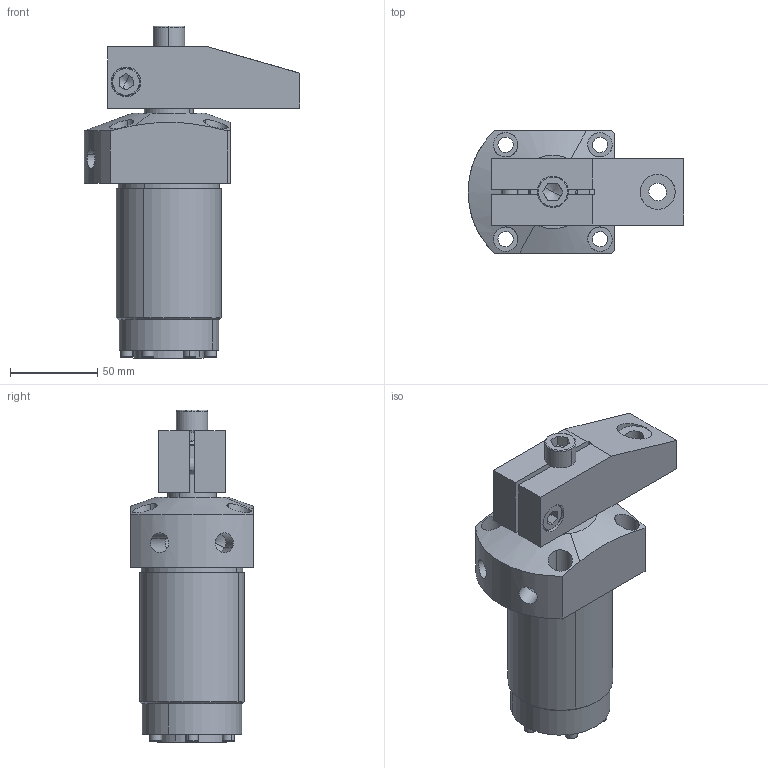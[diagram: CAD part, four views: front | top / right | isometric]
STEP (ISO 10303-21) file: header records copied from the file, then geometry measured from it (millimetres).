
FILE_DESCRIPTION(('CATIA V5 STEP Exchange'),'2;1');
FILE_NAME('\\Kjf-102\kjf_tc\Hydraulic_Clamp\Standard\SWING_CLAMP\SDRL-4034\SDx-4045_A\배포도면\SDx-4045_-.stp','2026-09-07T00:17:05+00:00',('none'),('none'),'CATIA Version 5 Release 19 SP 6 (IN-10)','CATIA V5 STEP AP203','none');
FILE_SCHEMA(('CONFIG_CONTROL_DESIGN'));
Length unit declared in the file: millimetre
Products named in the file (1): SDx-4045_C_3GUIDE
Assembly tree (12 placements, depth 2):
  SDx-4045_C_3GUIDE
    #58
    #2222
    #2507
    #3072
    #4147  x6
    #5039
    #5967
Bounding box: 123.5 x 70 x 190 mm (x, y, z)
Volume: 478175.8 mm3; surface area: 104488.1 mm2
Topology: 12 solids, 12 shells, 390 faces, 933 edges, 592 vertices
Faces by surface type: cylinder 177, plane 123, cone 56, torus 34
Entity records: 6935 total; most frequent: CARTESIAN_POINT 1669, ORIENTED_EDGE 1110, DIRECTION 850, EDGE_CURVE 555, AXIS2_PLACEMENT_3D 443, VERTEX_POINT 362, EDGE_LOOP 291, CIRCLE 274
